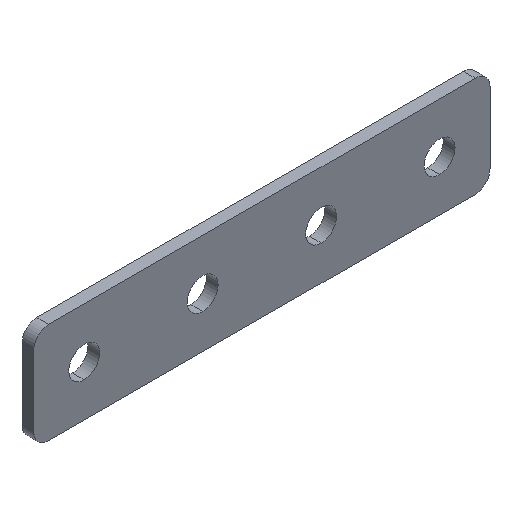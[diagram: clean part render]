
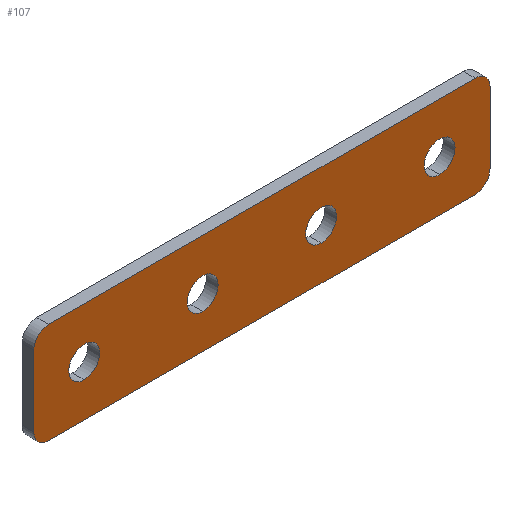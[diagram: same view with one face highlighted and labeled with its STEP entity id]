
A CAD part, isometric view. The second image highlights one B-rep face of the part: STEP entity #107.
In plain terms, the highlighted planar face has unit normal (0, -1, 0).
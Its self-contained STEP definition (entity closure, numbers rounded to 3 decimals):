
#2 = CARTESIAN_POINT ( 'NONE',  ( 0., 0., 0. ) ) ;
#11 = DIRECTION ( 'NONE',  ( 0., -1., 0. ) ) ;
#13 = AXIS2_PLACEMENT_3D ( 'NONE', #389, #495, #428 ) ;
#15 = CIRCLE ( 'NONE', #532, 2.5 ) ;
#19 = VERTEX_POINT ( 'NONE', #658 ) ;
#21 = EDGE_CURVE ( 'NONE', #151, #283, #392, .T. ) ;
#30 = CARTESIAN_POINT ( 'NONE',  ( 20., 0., -2.6 ) ) ;
#39 = VERTEX_POINT ( 'NONE', #581 ) ;
#40 = CARTESIAN_POINT ( 'NONE',  ( 66., 0., -6. ) ) ;
#41 = DIRECTION ( 'NONE',  ( 0., -1., 0. ) ) ;
#42 = CIRCLE ( 'NONE', #629, 2.6 ) ;
#47 = EDGE_CURVE ( 'NONE', #605, #19, #642, .T. ) ;
#58 = AXIS2_PLACEMENT_3D ( 'NONE', #574, #111, #227 ) ;
#61 = DIRECTION ( 'NONE',  ( 0., 1., 0. ) ) ;
#62 = CARTESIAN_POINT ( 'NONE',  ( 40., 0., 2.6 ) ) ;
#63 = CIRCLE ( 'NONE', #58, 2.6 ) ;
#70 = AXIS2_PLACEMENT_3D ( 'NONE', #631, #432, #133 ) ;
#71 = CARTESIAN_POINT ( 'NONE',  ( 68.5, 0., 8.5 ) ) ;
#72 = DIRECTION ( 'NONE',  ( 0., 0., -1. ) ) ;
#80 = ORIENTED_EDGE ( 'NONE', *, *, #121, .T. ) ;
#81 = CARTESIAN_POINT ( 'NONE',  ( 8.5, 0., 8.5 ) ) ;
#83 = DIRECTION ( 'NONE',  ( 1., 0., 0. ) ) ;
#88 = CARTESIAN_POINT ( 'NONE',  ( 60., 0., 2.6 ) ) ;
#105 = EDGE_LOOP ( 'NONE', ( #438, #222 ) ) ;
#106 = DIRECTION ( 'NONE',  ( 0., 1., 0. ) ) ;
#107 = ADVANCED_FACE ( 'NONE', ( #493, #334, #473, #259, #394 ), #638, .T. ) ;
#111 = DIRECTION ( 'NONE',  ( 0., 1., 0. ) ) ;
#113 = CARTESIAN_POINT ( 'NONE',  ( 66., 0., -8.5 ) ) ;
#114 = CIRCLE ( 'NONE', #396, 2.6 ) ;
#118 = CARTESIAN_POINT ( 'NONE',  ( 20., 0., 0. ) ) ;
#119 = LINE ( 'NONE', #503, #610 ) ;
#121 = EDGE_CURVE ( 'NONE', #605, #541, #129, .T. ) ;
#123 = DIRECTION ( 'NONE',  ( 0., 0., 1. ) ) ;
#126 = CARTESIAN_POINT ( 'NONE',  ( -8.5, 0., -6. ) ) ;
#129 = CIRCLE ( 'NONE', #515, 2.5 ) ;
#133 = DIRECTION ( 'NONE',  ( 0., 0., -1. ) ) ;
#136 = DIRECTION ( 'NONE',  ( 0., 1., 0. ) ) ;
#143 = EDGE_LOOP ( 'NONE', ( #440, #546 ) ) ;
#151 = VERTEX_POINT ( 'NONE', #62 ) ;
#156 = VERTEX_POINT ( 'NONE', #425 ) ;
#162 = ORIENTED_EDGE ( 'NONE', *, *, #365, .T. ) ;
#166 = DIRECTION ( 'NONE',  ( 0., 0., -1. ) ) ;
#168 = DIRECTION ( 'NONE',  ( 0., -1., 0. ) ) ;
#170 = DIRECTION ( 'NONE',  ( 0., 0., 1. ) ) ;
#175 = EDGE_CURVE ( 'NONE', #478, #541, #119, .T. ) ;
#183 = CIRCLE ( 'NONE', #502, 2.6 ) ;
#186 = DIRECTION ( 'NONE',  ( 0., 1., 0. ) ) ;
#189 = VERTEX_POINT ( 'NONE', #242 ) ;
#190 = DIRECTION ( 'NONE',  ( 0., 1., 0. ) ) ;
#194 = DIRECTION ( 'NONE',  ( -1., 0., 0. ) ) ;
#207 = VERTEX_POINT ( 'NONE', #88 ) ;
#208 = CARTESIAN_POINT ( 'NONE',  ( 60., 0., 0. ) ) ;
#211 = LINE ( 'NONE', #71, #409 ) ;
#222 = ORIENTED_EDGE ( 'NONE', *, *, #671, .T. ) ;
#227 = DIRECTION ( 'NONE',  ( 0., 0., 1. ) ) ;
#228 = CARTESIAN_POINT ( 'NONE',  ( -6., 0., -6. ) ) ;
#233 = CARTESIAN_POINT ( 'NONE',  ( 20., 0., 0. ) ) ;
#237 = AXIS2_PLACEMENT_3D ( 'NONE', #548, #136, #397 ) ;
#238 = CARTESIAN_POINT ( 'NONE',  ( 0., 0., -2.6 ) ) ;
#242 = CARTESIAN_POINT ( 'NONE',  ( 68.5, 0., -6. ) ) ;
#243 = VERTEX_POINT ( 'NONE', #30 ) ;
#251 = EDGE_CURVE ( 'NONE', #156, #661, #376, .T. ) ;
#257 = DIRECTION ( 'NONE',  ( 0., 1., 0. ) ) ;
#259 = FACE_BOUND ( 'NONE', #599, .T. ) ;
#264 = VECTOR ( 'NONE', #83, 1000. ) ;
#265 = DIRECTION ( 'NONE',  ( 0., 0., 1. ) ) ;
#272 = CARTESIAN_POINT ( 'NONE',  ( 40., 0., 0. ) ) ;
#273 = CARTESIAN_POINT ( 'NONE',  ( -8.5, 0., -8.5 ) ) ;
#279 = ORIENTED_EDGE ( 'NONE', *, *, #517, .T. ) ;
#283 = VERTEX_POINT ( 'NONE', #395 ) ;
#284 = EDGE_LOOP ( 'NONE', ( #611, #162, #314, #338, #412, #80, #664, #635 ) ) ;
#303 = DIRECTION ( 'NONE',  ( 0., 0., 1. ) ) ;
#304 = CIRCLE ( 'NONE', #70, 2.5 ) ;
#307 = EDGE_CURVE ( 'NONE', #601, #207, #471, .T. ) ;
#309 = AXIS2_PLACEMENT_3D ( 'NONE', #2, #369, #170 ) ;
#313 = ORIENTED_EDGE ( 'NONE', *, *, #390, .T. ) ;
#314 = ORIENTED_EDGE ( 'NONE', *, *, #251, .F. ) ;
#321 = CARTESIAN_POINT ( 'NONE',  ( 0., 0., 2.6 ) ) ;
#334 = FACE_BOUND ( 'NONE', #143, .T. ) ;
#338 = ORIENTED_EDGE ( 'NONE', *, *, #562, .T. ) ;
#347 = CARTESIAN_POINT ( 'NONE',  ( 66., 0., 6. ) ) ;
#360 = AXIS2_PLACEMENT_3D ( 'NONE', #347, #168, #557 ) ;
#365 = EDGE_CURVE ( 'NONE', #377, #661, #491, .T. ) ;
#369 = DIRECTION ( 'NONE',  ( 0., 1., 0. ) ) ;
#376 = LINE ( 'NONE', #81, #264 ) ;
#377 = VERTEX_POINT ( 'NONE', #449 ) ;
#389 = CARTESIAN_POINT ( 'NONE',  ( 0., 0., 0. ) ) ;
#390 = EDGE_CURVE ( 'NONE', #207, #601, #183, .T. ) ;
#391 = CARTESIAN_POINT ( 'NONE',  ( 66., 0., 8.5 ) ) ;
#392 = CIRCLE ( 'NONE', #433, 2.6 ) ;
#394 = FACE_OUTER_BOUND ( 'NONE', #284, .T. ) ;
#395 = CARTESIAN_POINT ( 'NONE',  ( 40., 0., -2.6 ) ) ;
#396 = AXIS2_PLACEMENT_3D ( 'NONE', #233, #186, #488 ) ;
#397 = DIRECTION ( 'NONE',  ( 0., 0., 1. ) ) ;
#408 = CIRCLE ( 'NONE', #578, 2.6 ) ;
#409 = VECTOR ( 'NONE', #430, 1000. ) ;
#412 = ORIENTED_EDGE ( 'NONE', *, *, #47, .F. ) ;
#414 = DIRECTION ( 'NONE',  ( 0., 0., 1. ) ) ;
#417 = EDGE_CURVE ( 'NONE', #478, #189, #15, .T. ) ;
#425 = CARTESIAN_POINT ( 'NONE',  ( -6., 0., 8.5 ) ) ;
#428 = DIRECTION ( 'NONE',  ( 0., 0., -1. ) ) ;
#430 = DIRECTION ( 'NONE',  ( 0., 0., -1. ) ) ;
#432 = DIRECTION ( 'NONE',  ( 0., -1., 0. ) ) ;
#433 = AXIS2_PLACEMENT_3D ( 'NONE', #272, #190, #123 ) ;
#438 = ORIENTED_EDGE ( 'NONE', *, *, #552, .T. ) ;
#440 = ORIENTED_EDGE ( 'NONE', *, *, #21, .T. ) ;
#449 = CARTESIAN_POINT ( 'NONE',  ( 68.5, 0., 6. ) ) ;
#460 = EDGE_CURVE ( 'NONE', #613, #474, #42, .T. ) ;
#471 = CIRCLE ( 'NONE', #237, 2.6 ) ;
#473 = FACE_BOUND ( 'NONE', #105, .T. ) ;
#474 = VERTEX_POINT ( 'NONE', #321 ) ;
#478 = VERTEX_POINT ( 'NONE', #113 ) ;
#480 = EDGE_CURVE ( 'NONE', #283, #151, #63, .T. ) ;
#483 = ORIENTED_EDGE ( 'NONE', *, *, #307, .T. ) ;
#488 = DIRECTION ( 'NONE',  ( 0., 0., 1. ) ) ;
#491 = CIRCLE ( 'NONE', #360, 2.5 ) ;
#493 = FACE_BOUND ( 'NONE', #577, .T. ) ;
#495 = DIRECTION ( 'NONE',  ( 0., -1., 0. ) ) ;
#502 = AXIS2_PLACEMENT_3D ( 'NONE', #208, #257, #414 ) ;
#503 = CARTESIAN_POINT ( 'NONE',  ( 68.5, 0., -8.5 ) ) ;
#515 = AXIS2_PLACEMENT_3D ( 'NONE', #228, #11, #72 ) ;
#517 = EDGE_CURVE ( 'NONE', #474, #613, #595, .T. ) ;
#532 = AXIS2_PLACEMENT_3D ( 'NONE', #40, #41, #166 ) ;
#541 = VERTEX_POINT ( 'NONE', #579 ) ;
#543 = CARTESIAN_POINT ( 'NONE',  ( 60., 0., -2.6 ) ) ;
#545 = DIRECTION ( 'NONE',  ( 0., 0., 1. ) ) ;
#546 = ORIENTED_EDGE ( 'NONE', *, *, #480, .T. ) ;
#548 = CARTESIAN_POINT ( 'NONE',  ( 60., 0., 0. ) ) ;
#552 = EDGE_CURVE ( 'NONE', #39, #243, #408, .T. ) ;
#557 = DIRECTION ( 'NONE',  ( 0., 0., -1. ) ) ;
#562 = EDGE_CURVE ( 'NONE', #156, #19, #304, .T. ) ;
#571 = ORIENTED_EDGE ( 'NONE', *, *, #460, .T. ) ;
#574 = CARTESIAN_POINT ( 'NONE',  ( 40., 0., 0. ) ) ;
#577 = EDGE_LOOP ( 'NONE', ( #313, #483 ) ) ;
#578 = AXIS2_PLACEMENT_3D ( 'NONE', #118, #61, #265 ) ;
#579 = CARTESIAN_POINT ( 'NONE',  ( -6., 0., -8.5 ) ) ;
#581 = CARTESIAN_POINT ( 'NONE',  ( 20., 0., 2.6 ) ) ;
#595 = CIRCLE ( 'NONE', #309, 2.6 ) ;
#598 = EDGE_CURVE ( 'NONE', #377, #189, #211, .T. ) ;
#599 = EDGE_LOOP ( 'NONE', ( #279, #571 ) ) ;
#601 = VERTEX_POINT ( 'NONE', #543 ) ;
#605 = VERTEX_POINT ( 'NONE', #126 ) ;
#610 = VECTOR ( 'NONE', #194, 1000. ) ;
#611 = ORIENTED_EDGE ( 'NONE', *, *, #598, .F. ) ;
#612 = CARTESIAN_POINT ( 'NONE',  ( 0., 0., 0. ) ) ;
#613 = VERTEX_POINT ( 'NONE', #238 ) ;
#625 = VECTOR ( 'NONE', #545, 1000. ) ;
#629 = AXIS2_PLACEMENT_3D ( 'NONE', #612, #106, #303 ) ;
#631 = CARTESIAN_POINT ( 'NONE',  ( -6., 0., 6. ) ) ;
#635 = ORIENTED_EDGE ( 'NONE', *, *, #417, .T. ) ;
#638 = PLANE ( 'NONE',  #13 ) ;
#642 = LINE ( 'NONE', #273, #625 ) ;
#658 = CARTESIAN_POINT ( 'NONE',  ( -8.5, 0., 6. ) ) ;
#661 = VERTEX_POINT ( 'NONE', #391 ) ;
#664 = ORIENTED_EDGE ( 'NONE', *, *, #175, .F. ) ;
#671 = EDGE_CURVE ( 'NONE', #243, #39, #114, .T. ) ;
